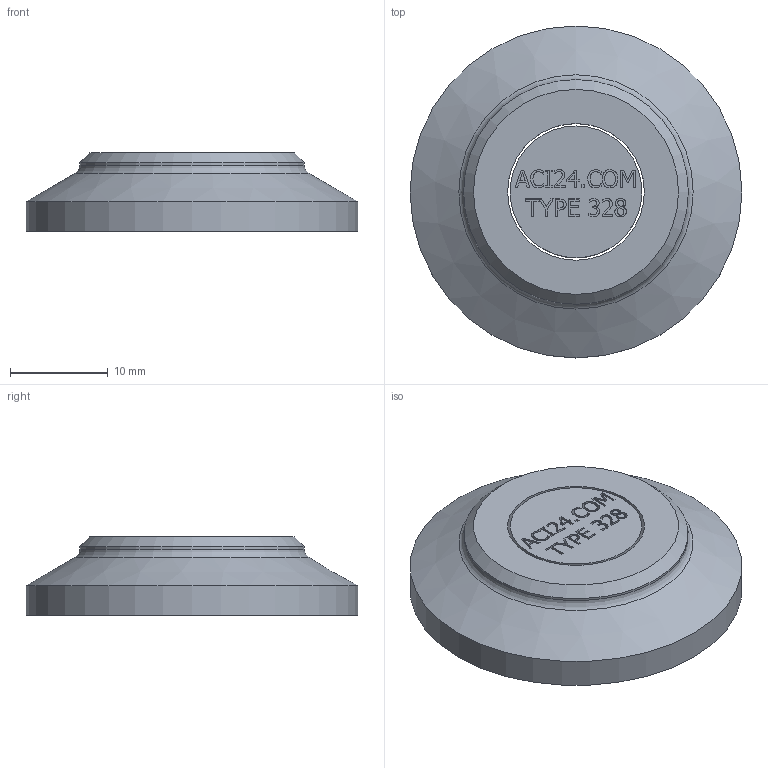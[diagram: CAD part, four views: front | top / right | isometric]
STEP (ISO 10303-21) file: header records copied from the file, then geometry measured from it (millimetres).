
FILE_DESCRIPTION(/* description */ ('ACI Typ 328 DN 10 / 15 / 20 PN 16'),/* implementation_level */ '2;1');
FILE_NAME(/* name */ 'C:\Users\willms\Desktop\ACI-328-10-20-16.stp',/* time_stamp */ '2020-09-01T16:05:23+02:00',/* author */ ('götz'),/* organization */ ('ACI Industriearmaturen GmbH info@aci24.com www.aci24.com'),/* preprocessor_version */ 'ST-DEVELOPER v16.1',/* originating_system */ 'Autodesk Inventor 2016',/* authorisation */ 'ACI Industriearmaturen GmbH info@aci24.com www.aci24.com');
FILE_SCHEMA (('CONFIG_CONTROL_DESIGN'));
Length unit declared in the file: centimetre
Products named in the file (1): ACI-328-10-20-16
Bounding box: 34 x 34 x 8 mm (x, y, z)
Volume: 5203.3 mm3; surface area: 3289.4 mm2
Topology: 2 solids, 2 shells, 270 faces, 725 edges, 482 vertices
Faces by surface type: plane 147, bspline 114, cylinder 4, cone 4, torus 1
Full cylindrical faces by diameter (mm): 13.5 x1, 14 x1, 23 x1, 34 x1
Entity records: 8972 total; most frequent: CARTESIAN_POINT 2951, ORIENTED_EDGE 1432, DIRECTION 816, EDGE_CURVE 716, VERTEX_POINT 482, LINE 474, VECTOR 474, EDGE_LOOP 304
